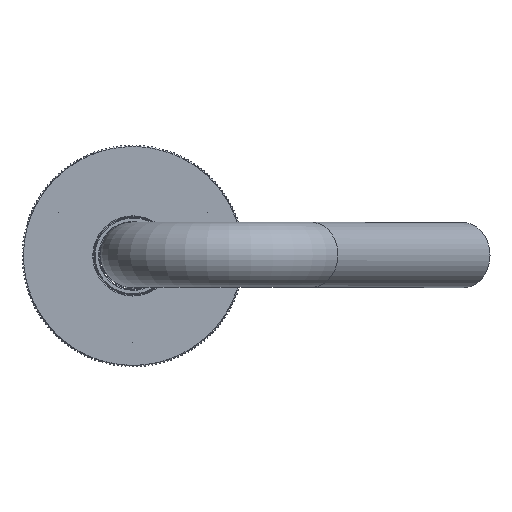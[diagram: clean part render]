
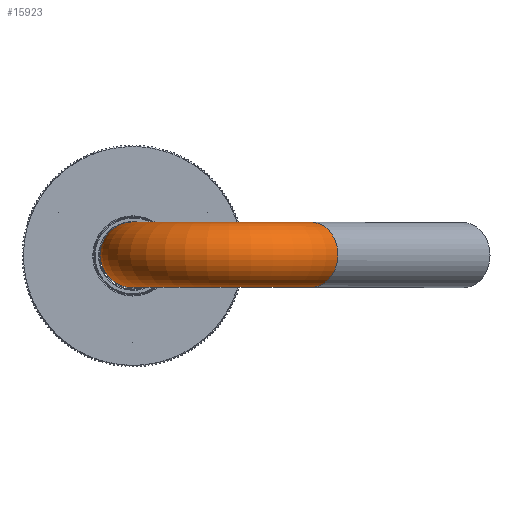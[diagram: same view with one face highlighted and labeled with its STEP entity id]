
A CAD part, top view. The second image highlights one B-rep face of the part: STEP entity #15923.
In plain terms, the highlighted toroidal (fillet/blend) face has major radius 30 mm and minor radius 10 mm.
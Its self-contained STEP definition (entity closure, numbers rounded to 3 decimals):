
#2458=TOROIDAL_SURFACE('',#24959,30.,10.);
#3222=ORIENTED_EDGE('',*,*,#8140,.T.);
#3223=ORIENTED_EDGE('',*,*,#8094,.F.);
#8094=EDGE_CURVE('',#10566,#10566,#11983,.F.);
#8140=EDGE_CURVE('',#10612,#10612,#11998,.F.);
#10566=VERTEX_POINT('',#32021);
#10612=VERTEX_POINT('',#32148);
#11983=CIRCLE('',#24930,10.);
#11998=CIRCLE('',#24958,10.);
#12915=EDGE_LOOP('',(#3222));
#12916=EDGE_LOOP('',(#3223));
#14187=FACE_BOUND('',#12915,.T.);
#14188=FACE_BOUND('',#12916,.T.);
#15923=ADVANCED_FACE('',(#14187,#14188),#2458,.T.);
#24930=AXIS2_PLACEMENT_3D('',#32020,#27060,#27061);
#24958=AXIS2_PLACEMENT_3D('',#32147,#27133,#27134);
#24959=AXIS2_PLACEMENT_3D('',#32149,#27135,#27136);
#27060=DIRECTION('',(0.,0.,1.));
#27061=DIRECTION('',(-1.,0.,0.));
#27133=DIRECTION('',(0.57,0.,-0.822));
#27134=DIRECTION('',(0.822,0.,0.57));
#27135=DIRECTION('',(0.,1.,0.));
#27136=DIRECTION('',(0.,0.,1.));
#32020=CARTESIAN_POINT('',(0.,0.,185.));
#32021=CARTESIAN_POINT('',(-10.,0.,185.));
#32147=CARTESIAN_POINT('',(54.649,0.,202.1));
#32148=CARTESIAN_POINT('',(62.866,0.,207.8));
#32149=CARTESIAN_POINT('',(30.,0.,185.));
